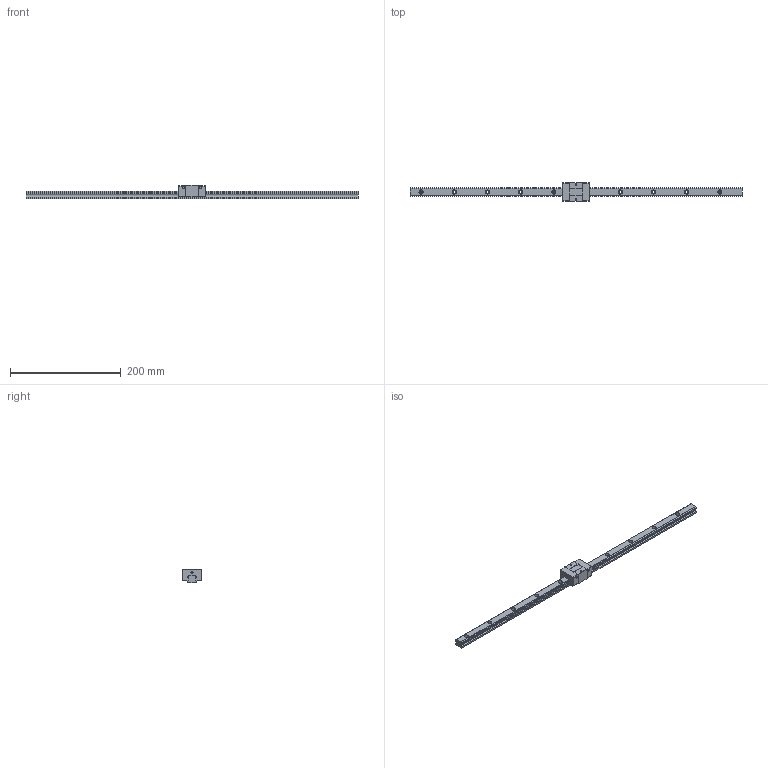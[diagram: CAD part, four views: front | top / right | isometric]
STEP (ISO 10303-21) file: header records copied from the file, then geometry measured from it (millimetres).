
FILE_DESCRIPTION (( 'STEP AP203' ), '1' );
FILE_NAME ('TRS15VS-ZN.STEP', '2024-06-12T08:54:15', ( '' ), ( '' ), 'SwSTEP 2.0', 'SolidWorks 2022', '' );
FILE_SCHEMA (( 'CONFIG_CONTROL_DESIGN' ));
Length unit declared in the file: millimetre
Products named in the file (1): TRS15VS-ZN
Bounding box: 600 x 34 x 24 mm (x, y, z)
Volume: 127326.4 mm3; surface area: 44844.2 mm2
Topology: 2 solids, 2 shells, 186 faces, 484 edges, 320 vertices
Faces by surface type: plane 94, cylinder 92
Entity records: 5863 total; most frequent: DIRECTION 1042, CARTESIAN_POINT 991, ORIENTED_EDGE 968, EDGE_CURVE 484, AXIS2_PLACEMENT_3D 371, VERTEX_POINT 320, VECTOR 300, LINE 300
